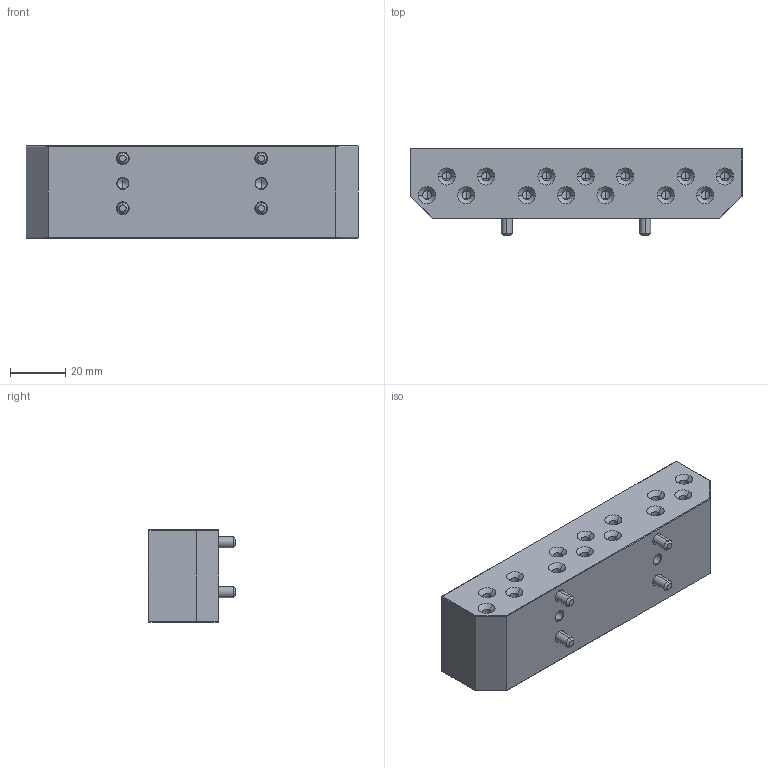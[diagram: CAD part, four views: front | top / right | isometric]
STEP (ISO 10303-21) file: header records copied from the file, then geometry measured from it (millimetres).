
FILE_DESCRIPTION (( 'STEP AP203' ), '1' );
FILE_NAME ('1QCAM-14M5G.STEP', '2024-03-14T08:23:34', ( '微软用户' ), ( '微软中国' ), 'SwSTEP 2.0', 'SolidWorks 2018', '' );
FILE_SCHEMA (( 'CONFIG_CONTROL_DESIGN' ));
Length unit declared in the file: millimetre
Products named in the file (1): 1QCAM-14M5G
Bounding box: 120 x 31.5 x 33.27 mm (x, y, z)
Volume: 93099.1 mm3; surface area: 23973.6 mm2
Topology: 1 solids, 1 shells, 346 faces, 824 edges, 470 vertices
Faces by surface type: cone 124, cylinder 120, plane 94, bspline 8
Entity records: 10355 total; most frequent: CARTESIAN_POINT 2453, DIRECTION 1676, ORIENTED_EDGE 1584, EDGE_CURVE 792, AXIS2_PLACEMENT_3D 637, VERTEX_POINT 470, VECTOR 402, LINE 402
